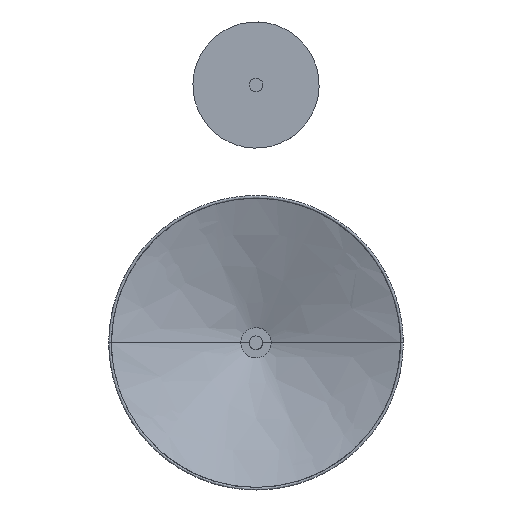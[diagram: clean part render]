
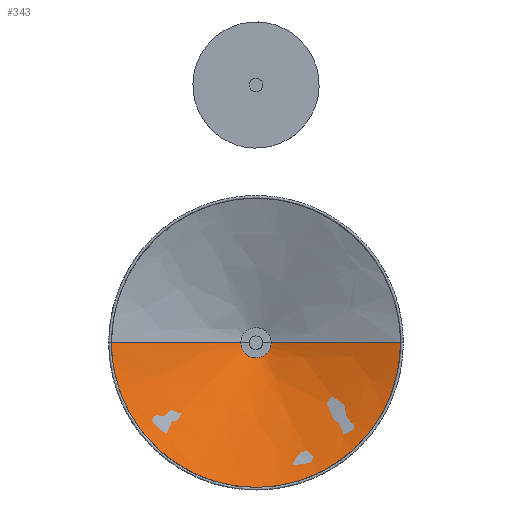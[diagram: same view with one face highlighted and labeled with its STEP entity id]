
A CAD part, top view. The second image highlights one B-rep face of the part: STEP entity #343.
In plain terms, the highlighted free-form (B-spline) face has degree [2, 2] with [5, 3] control points.
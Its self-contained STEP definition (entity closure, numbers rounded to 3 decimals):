
#34=(
BOUNDED_SURFACE()
B_SPLINE_SURFACE(2,2,((#5519,#5520,#5521),(#5522,#5523,#5524),(#5525,#5526,
#5527),(#5528,#5529,#5530),(#5531,#5532,#5533)),.UNSPECIFIED.,.F.,.F.,.F.)
B_SPLINE_SURFACE_WITH_KNOTS((3,2,3),(3,3),(0.,273.53,547.059),
(237.944,414.26),.UNSPECIFIED.)
GEOMETRIC_REPRESENTATION_ITEM()
RATIONAL_B_SPLINE_SURFACE(((1.,1.,1.),(0.707,0.707,
0.707),(1.,1.,1.),(0.707,0.707,0.707),
(1.,1.,1.)))
REPRESENTATION_ITEM('')
SURFACE()
);
#343=ADVANCED_FACE('',(#450),#34,.T.);
#450=FACE_OUTER_BOUND('',#563,.T.);
#563=EDGE_LOOP('',(#1051,#1052,#1053,#1054));
#1051=ORIENTED_EDGE('',*,*,#1353,.T.);
#1052=ORIENTED_EDGE('',*,*,#1348,.F.);
#1053=ORIENTED_EDGE('',*,*,#1351,.F.);
#1054=ORIENTED_EDGE('',*,*,#1350,.T.);
#1348=EDGE_CURVE('',#1610,#1613,#1422,.T.);
#1350=EDGE_CURVE('',#1611,#1612,#1424,.T.);
#1351=EDGE_CURVE('',#1611,#1610,#1425,.T.);
#1353=EDGE_CURVE('',#1612,#1613,#1427,.T.);
#1422=(
BOUNDED_CURVE()
B_SPLINE_CURVE(2,(#5678,#5679,#5680,#5681,#5682),.UNSPECIFIED.,.F.,.F.)
B_SPLINE_CURVE_WITH_KNOTS((3,2,3),(0.,273.53,547.059),
 .UNSPECIFIED.)
CURVE()
GEOMETRIC_REPRESENTATION_ITEM()
RATIONAL_B_SPLINE_CURVE((1.,0.707,1.,0.707,1.))
REPRESENTATION_ITEM('')
);
#1424=(
BOUNDED_CURVE()
B_SPLINE_CURVE(2,(#5688,#5689,#5690,#5691,#5692),.UNSPECIFIED.,.F.,.F.)
B_SPLINE_CURVE_WITH_KNOTS((3,2,3),(0.,273.53,547.059),
 .UNSPECIFIED.)
CURVE()
GEOMETRIC_REPRESENTATION_ITEM()
RATIONAL_B_SPLINE_CURVE((1.,0.707,1.,0.707,1.))
REPRESENTATION_ITEM('')
);
#1425=(
BOUNDED_CURVE()
B_SPLINE_CURVE(2,(#5693,#5694,#5695),.UNSPECIFIED.,.F.,.F.)
B_SPLINE_CURVE_WITH_KNOTS((3,3),(238.171,414.26),
 .UNSPECIFIED.)
CURVE()
GEOMETRIC_REPRESENTATION_ITEM()
RATIONAL_B_SPLINE_CURVE((1.,1.,1.))
REPRESENTATION_ITEM('')
);
#1427=(
BOUNDED_CURVE()
B_SPLINE_CURVE(2,(#5698,#5699,#5700),.UNSPECIFIED.,.F.,.F.)
B_SPLINE_CURVE_WITH_KNOTS((3,3),(238.171,414.26),
 .UNSPECIFIED.)
CURVE()
GEOMETRIC_REPRESENTATION_ITEM()
RATIONAL_B_SPLINE_CURVE((1.,1.,1.))
REPRESENTATION_ITEM('')
);
#1610=VERTEX_POINT('',#5662);
#1611=VERTEX_POINT('',#5663);
#1612=VERTEX_POINT('',#5664);
#1613=VERTEX_POINT('',#5665);
#5519=CARTESIAN_POINT('',(7.788,2.919,1004.312));
#5520=CARTESIAN_POINT('',(89.862,2.919,1034.184));
#5521=CARTESIAN_POINT('',(171.936,2.919,1064.057));
#5522=CARTESIAN_POINT('',(7.788,-4.87,1004.312));
#5523=CARTESIAN_POINT('',(89.862,-86.944,1034.184));
#5524=CARTESIAN_POINT('',(171.936,-169.018,1064.057));
#5525=CARTESIAN_POINT('',(0.,-4.87,1004.312));
#5526=CARTESIAN_POINT('',(0.,-86.944,1034.184));
#5527=CARTESIAN_POINT('',(0.,-169.018,1064.057));
#5528=CARTESIAN_POINT('',(-7.788,-4.87,1004.312));
#5529=CARTESIAN_POINT('',(-89.862,-86.944,1034.184));
#5530=CARTESIAN_POINT('',(-171.936,-169.018,1064.057));
#5531=CARTESIAN_POINT('',(-7.788,2.919,1004.312));
#5532=CARTESIAN_POINT('',(-89.862,2.919,1034.184));
#5533=CARTESIAN_POINT('',(-171.936,2.919,1064.057));
#5662=CARTESIAN_POINT('',(171.936,2.919,1064.057));
#5663=CARTESIAN_POINT('',(8.,2.919,1004.389));
#5664=CARTESIAN_POINT('',(-8.,2.919,1004.389));
#5665=CARTESIAN_POINT('',(-171.936,2.919,1064.057));
#5678=CARTESIAN_POINT('',(171.936,2.919,1064.057));
#5679=CARTESIAN_POINT('',(171.936,-169.018,1064.057));
#5680=CARTESIAN_POINT('',(0.,-169.018,1064.057));
#5681=CARTESIAN_POINT('',(-171.936,-169.018,1064.057));
#5682=CARTESIAN_POINT('',(-171.936,2.919,1064.057));
#5688=CARTESIAN_POINT('',(8.,2.919,1004.389));
#5689=CARTESIAN_POINT('',(8.,-5.081,1004.389));
#5690=CARTESIAN_POINT('',(0.,-5.081,1004.389));
#5691=CARTESIAN_POINT('',(-8.,-5.081,1004.389));
#5692=CARTESIAN_POINT('',(-8.,2.919,1004.389));
#5693=CARTESIAN_POINT('',(8.,2.919,1004.389));
#5694=CARTESIAN_POINT('',(89.968,2.919,1034.223));
#5695=CARTESIAN_POINT('',(171.936,2.919,1064.057));
#5698=CARTESIAN_POINT('',(-8.,2.919,1004.389));
#5699=CARTESIAN_POINT('',(-89.968,2.919,1034.223));
#5700=CARTESIAN_POINT('',(-171.936,2.919,1064.057));
